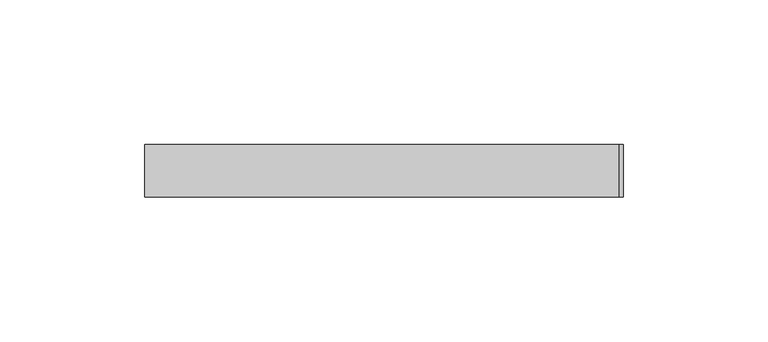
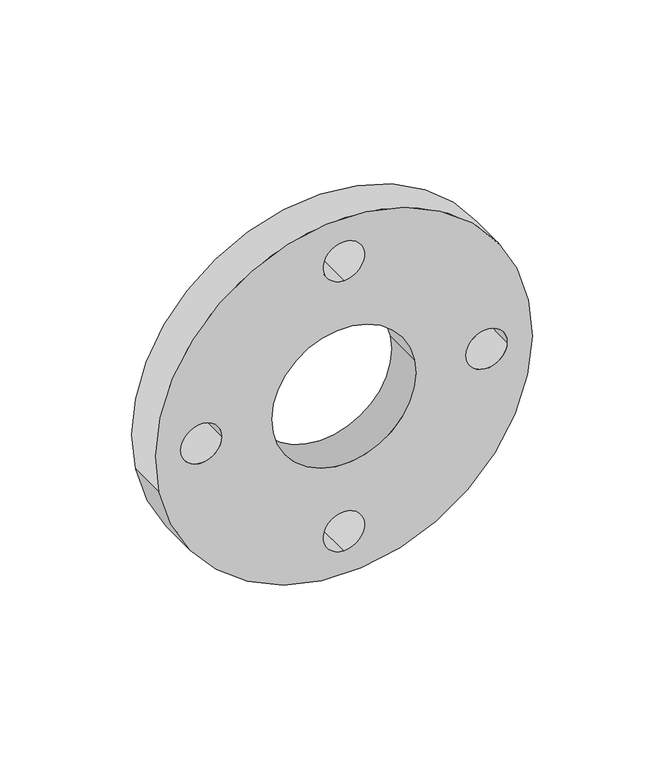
"""IFC4 building model written with IfcOpenShell, lengths in millimetres: pipe fitting geometry, 01051019 : Flange livre."""

from ifc_helpers import new_model, si_unit, point, frame, frame_2d, origin, origin_2d, place, context, project, spatial, circle_curve, trimmed, segment, composite_curve, outline, extrude, source, transform, mapped, element, save


def pipe_fitting_367cdaaf(model_context):
    return source(origin(), model_context, "Body", "SweptSolid", [
        extrude(outline(composite_curve([segment(trimmed(circle_curve(origin_2d(), 82.5), [point((-16.0949516, -80.9147856))], [point((16.0949516, 80.9147856))], False, "CARTESIAN"), True, "CONTINUOUS"), segment(trimmed(circle_curve(origin_2d(), 82.5), [point((16.0949516, 80.9147856))], [point((-16.0949516, -80.9147856))], False, "CARTESIAN"), True, "CONTINUOUS")], self_intersect=False), holes=[composite_curve([segment(trimmed(circle_curve(origin_2d(), 31.5), [point((-6.1453451, -30.8947363))], [point((6.1453451, 30.8947363))], True, "CARTESIAN"), True, "CONTINUOUS"), segment(trimmed(circle_curve(origin_2d(), 31.5), [point((6.1453451, 30.8947363))], [point((-6.1453451, -30.8947363))], True, "CARTESIAN"), True, "CONTINUOUS")], self_intersect=False), composite_curve([segment(trimmed(circle_curve(frame_2d((0.0, -62.5)), 9.0), [point((0.0, -53.5))], [point((0.0, -71.5))], True, "CARTESIAN"), True, "CONTINUOUS"), segment(trimmed(circle_curve(frame_2d((0.0, -62.5)), 9.0), [point((0.0, -71.5))], [point((0.0, -53.5))], True, "CARTESIAN"), True, "CONTINUOUS")], self_intersect=False), composite_curve([segment(trimmed(circle_curve(frame_2d((62.5, 0.0)), 9.0), [point((53.5, 0.0))], [point((71.5, 0.0))], True, "CARTESIAN"), True, "CONTINUOUS"), segment(trimmed(circle_curve(frame_2d((62.5, 0.0)), 9.0), [point((71.5, 0.0))], [point((53.5, 0.0))], True, "CARTESIAN"), True, "CONTINUOUS")], self_intersect=False), composite_curve([segment(trimmed(circle_curve(frame_2d((-62.5, 0.0)), 9.0), [point((-53.5, 0.0))], [point((-71.5, 0.0))], True, "CARTESIAN"), True, "CONTINUOUS"), segment(trimmed(circle_curve(frame_2d((-62.5, 0.0)), 9.0), [point((-71.5, 0.0))], [point((-53.5, 0.0))], True, "CARTESIAN"), True, "CONTINUOUS")], self_intersect=False), composite_curve([segment(trimmed(circle_curve(frame_2d((0.0, 62.5)), 9.0), [point((0.0, 53.5))], [point((0.0, 71.5))], True, "CARTESIAN"), True, "CONTINUOUS"), segment(trimmed(circle_curve(frame_2d((0.0, 62.5)), 9.0), [point((0.0, 71.5))], [point((0.0, 53.5))], True, "CARTESIAN"), True, "CONTINUOUS")], self_intersect=False)]), frame((0.0, -9.0, 0.0), z_axis=(0.0, 1.0, 0.0), x_axis=(0.0, 0.0, 1.0)), (0.0, 0.0, 1.0), 18.0),
    ])


if __name__ == "__main__":
    model = new_model("IFC4")
    model_context = context("Model", 3, world=origin())
    ifc_project = project(units=[si_unit("LENGTHUNIT", "METRE", prefix="MILLI")], contexts=[model_context])
    site = spatial("IfcSite", under=ifc_project)
    building = spatial("IfcBuilding", under=site)
    placement = place(None, origin())
    pipe_fitting_shape = pipe_fitting_367cdaaf(model_context)
    element("IfcPipeFitting", 1, ObjectType="01051019 : Flange livre", at=placement, inside=building, context=model_context, shape_type="MappedRepresentation", body=[
        mapped(pipe_fitting_shape, transform((0.0, 0.0, 0.0), x_axis=(1.0, 0.0, 0.0), y_axis=(0.0, 1.0, 0.0), z_axis=(0.0, 0.0, 1.0))),
    ])
    save(model, "model.ifc")
